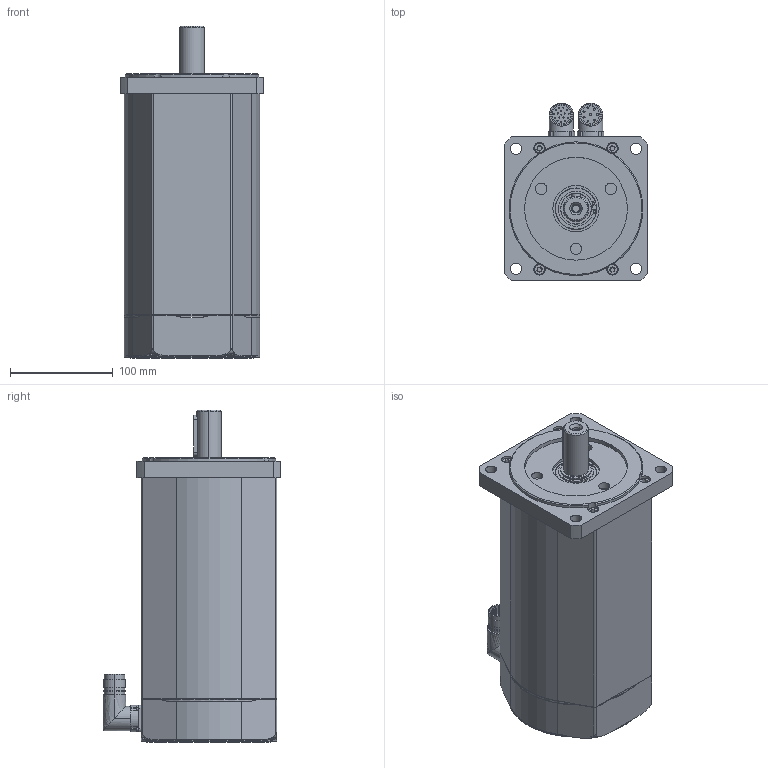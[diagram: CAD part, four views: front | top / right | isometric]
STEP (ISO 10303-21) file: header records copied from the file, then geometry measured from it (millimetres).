
FILE_DESCRIPTION (( 'STEP AP203' ), '1' );
FILE_NAME ('SSAX140L_SF.STEP', '2015-09-10T12:55:59', ( 'Tecnico motori' ), ( '' ), 'SwSTEP 2.0', 'SolidWorks 2010', '' );
FILE_SCHEMA (( 'CONFIG_CONTROL_DESIGN' ));
Length unit declared in the file: millimetre
Products named in the file (1): SSAX140L_SF
Bounding box: 140 x 173 x 322.85 mm (x, y, z)
Surface area: 196931.8 mm2 (no closed solid volume)
Topology: 0 solids, 32 shells, 454 faces, 1263 edges, 872 vertices
Faces by surface type: cylinder 211, plane 186, cone 27, torus 24, bspline 6
Entity records: 15730 total; most frequent: CARTESIAN_POINT 3664, DIRECTION 2703, ORIENTED_EDGE 2197, EDGE_CURVE 1263, AXIS2_PLACEMENT_3D 1061, VERTEX_POINT 872, CIRCLE 612, LINE 581
